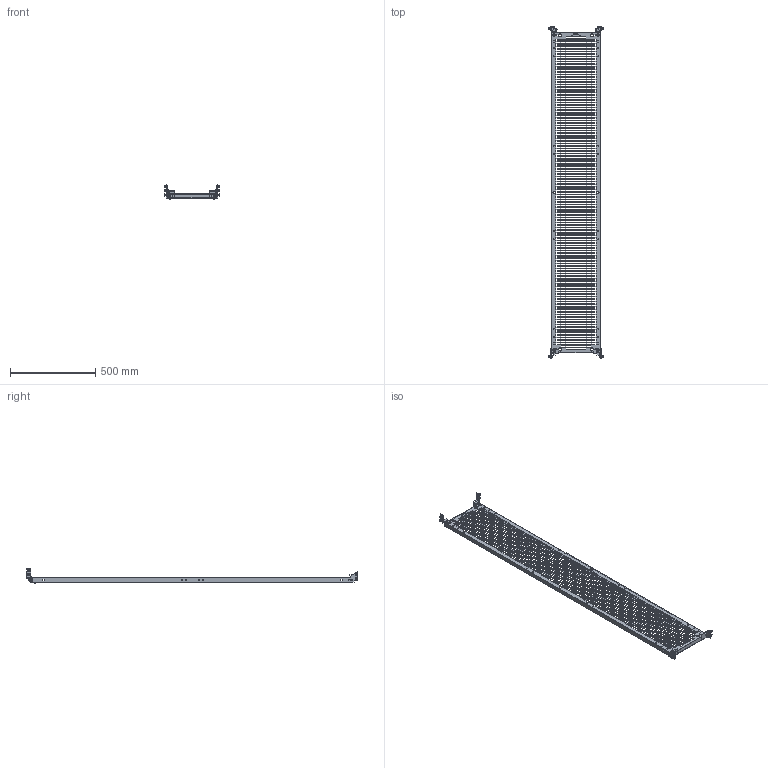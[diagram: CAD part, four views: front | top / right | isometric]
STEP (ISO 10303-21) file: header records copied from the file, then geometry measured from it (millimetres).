
FILE_DESCRIPTION (( 'STEP AP203' ), '1' );
FILE_NAME ('R5NPCEP2040.STEP', '2025-03-26T10:53:39', ( '' ), ( '' ), 'SwSTEP 2.0', 'SolidWorks 2022', '' );
FILE_SCHEMA (( 'CONFIG_CONTROL_DESIGN' ));
Length unit declared in the file: millimetre
Products named in the file (20): RB.2684.00.01.0; RB.2628.00.00.0_-25; R5NPCEP2040; M6 MGR-MKO-0625_1,5mm (thread); RB.1499.00.03.0; RB.2684.00.01.0_-01; RB.2709.00.00.0; RB.2814.00.01.0; М6 D87181 Zinc_In a tightened position (1.5 mm); AC00C237; 003-006-19 GOST 9833-73; RB.2684.00.03.0; M6x16 DIN 912 HX cl.4,8 Zinc_thread; RB.2684.00.00.0 СБ; RB.2814.00.01.0_-01; RB.2684.00.00.0 СБ_-01; M6x16 DIN 7985 Torx cl.8,8 Zinc_stright; RB.2697.00.00.0; RB.2814.00.00.0 СБ; RB.2814.00.00.0 СБ_-01
Assembly tree (43 placements, depth 3):
  R5NPCEP2040
    RB.2628.00.00.0_-25
    RB.2814.00.00.0 СБ_-01
      RB.2814.00.01.0_-01
      M6 MGR-MKO-0625_1,5mm (thread)
    RB.2814.00.00.0 СБ
      RB.2814.00.01.0
      M6 MGR-MKO-0625_1,5mm (thread)
    M6x16 DIN 912 HX cl.4,8 Zinc_thread  x2
    AC00C237  x2
    RB.2684.00.00.0 СБ_-01
      RB.2684.00.01.0_-01
      RB.2684.00.03.0
      RB.1499.00.03.0
      RB.2697.00.00.0
      003-006-19 GOST 9833-73  x2
    RB.2684.00.00.0 СБ
      RB.2684.00.01.0
      RB.2684.00.03.0
      RB.1499.00.03.0
      003-006-19 GOST 9833-73  x2
      RB.2697.00.00.0
    M6x16 DIN 7985 Torx cl.8,8 Zinc_stright  x8
    М6 D87181 Zinc_In a tightened position (1.5 mm)  x8
    RB.2709.00.00.0  x2
Bounding box: 328.3 x 1950.46 x 84.5 mm (x, y, z)
Volume: 1176158.3 mm3; surface area: 1140412.7 mm2
Topology: 39 solids, 39 shells, 6169 faces, 17751 edges, 11591 vertices
Faces by surface type: plane 5030, cylinder 512, bspline 301, cone 186, torus 132, sphere 8
Full cylindrical faces by diameter (mm): 0.6 x12, 2.3 x4, 2.5 x4, 3.8 x6, 4 x2, 4.2 x4, 4.92 x14, 5 x16, 6 x58, 6.5 x8, 6.7 x2, 7 x12, 7.5 x2, 8 x4, 8.3 x8, 9 x6, 10 x4, 12 x26, 15 x6
Entity records: 163907 total; most frequent: CARTESIAN_POINT 31957, ORIENTED_EDGE 27388, DIRECTION 23391, EDGE_CURVE 13694, LINE 13069, VECTOR 13069, VERTEX_POINT 9196, EDGE_LOOP 7070
